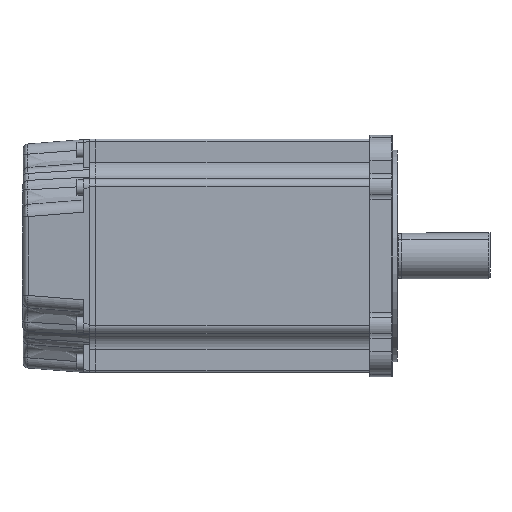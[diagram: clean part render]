
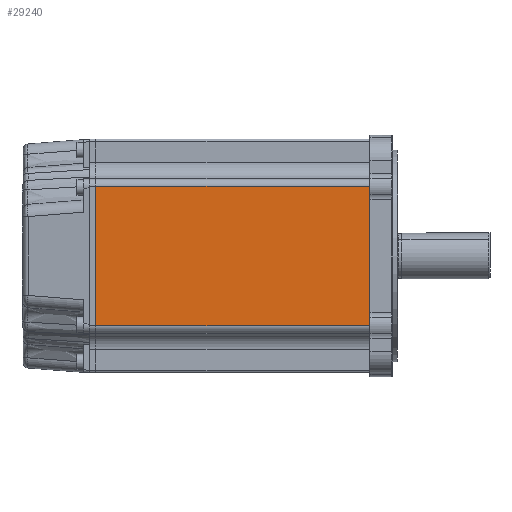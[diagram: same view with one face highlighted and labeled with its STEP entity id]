
A CAD part, front view. The second image highlights one B-rep face of the part: STEP entity #29240.
In plain terms, the highlighted planar face has unit normal (0, -1, 0).
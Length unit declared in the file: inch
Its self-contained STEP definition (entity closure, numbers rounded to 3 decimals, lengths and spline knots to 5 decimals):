
#1340 = DIRECTION ( 'NONE',  ( 0., 0., 1. ) ) ;
#3363 = CARTESIAN_POINT ( 'NONE',  ( -7.17, -2.825, -2.825 ) ) ;
#3404 = LINE ( 'NONE', #25081, #27075 ) ;
#6124 = EDGE_CURVE ( 'NONE', #52641, #46111, #51341, .T. ) ;
#6699 = LINE ( 'NONE', #57724, #53984 ) ;
#7406 = VERTEX_POINT ( 'NONE', #24872 ) ;
#8095 = DIRECTION ( 'NONE',  ( 0., 0., 1. ) ) ;
#11004 = DIRECTION ( 'NONE',  ( -1., 0., 0. ) ) ;
#12413 = DIRECTION ( 'NONE',  ( 1., 0., 0. ) ) ;
#13695 = VECTOR ( 'NONE', #12413, 39.37008 ) ;
#13828 = EDGE_CURVE ( 'NONE', #52641, #54832, #35729, .T. ) ;
#18037 = CARTESIAN_POINT ( 'NONE',  ( -7.17, -2.825, 1.6825 ) ) ;
#19973 = FACE_OUTER_BOUND ( 'NONE', #30340, .T. ) ;
#24872 = CARTESIAN_POINT ( 'NONE',  ( -0.55, -2.825, 1.6825 ) ) ;
#25081 = CARTESIAN_POINT ( 'NONE',  ( -7.17, -2.825, 1.6825 ) ) ;
#27075 = VECTOR ( 'NONE', #11004, 39.37008 ) ;
#27967 = DIRECTION ( 'NONE',  ( 0., 0., 1. ) ) ;
#28417 = CARTESIAN_POINT ( 'NONE',  ( -0.55, -2.825, -1.6825 ) ) ;
#29240 = ADVANCED_FACE ( 'NONE', ( #19973 ), #54982, .F. ) ;
#30340 = EDGE_LOOP ( 'NONE', ( #34915, #41274, #32924, #59181 ) ) ;
#32924 = ORIENTED_EDGE ( 'NONE', *, *, #13828, .F. ) ;
#34915 = ORIENTED_EDGE ( 'NONE', *, *, #58833, .T. ) ;
#35500 = AXIS2_PLACEMENT_3D ( 'NONE', #3363, #36445, #8095 ) ;
#35729 = LINE ( 'NONE', #51663, #48306 ) ;
#36445 = DIRECTION ( 'NONE',  ( 0., 1., 0. ) ) ;
#37251 = CARTESIAN_POINT ( 'NONE',  ( -7.17, -2.825, -1.6825 ) ) ;
#40925 = CARTESIAN_POINT ( 'NONE',  ( -0.55, -2.825, -1.6825 ) ) ;
#41274 = ORIENTED_EDGE ( 'NONE', *, *, #41523, .T. ) ;
#41523 = EDGE_CURVE ( 'NONE', #7406, #54832, #3404, .T. ) ;
#46111 = VERTEX_POINT ( 'NONE', #28417 ) ;
#48306 = VECTOR ( 'NONE', #27967, 39.37008 ) ;
#51341 = LINE ( 'NONE', #40925, #13695 ) ;
#51663 = CARTESIAN_POINT ( 'NONE',  ( -7.17, -2.825, -2.825 ) ) ;
#52641 = VERTEX_POINT ( 'NONE', #37251 ) ;
#53984 = VECTOR ( 'NONE', #1340, 39.37008 ) ;
#54832 = VERTEX_POINT ( 'NONE', #18037 ) ;
#54982 = PLANE ( 'NONE',  #35500 ) ;
#57724 = CARTESIAN_POINT ( 'NONE',  ( -0.55, -2.825, -2.825 ) ) ;
#58833 = EDGE_CURVE ( 'NONE', #46111, #7406, #6699, .T. ) ;
#59181 = ORIENTED_EDGE ( 'NONE', *, *, #6124, .T. ) ;
